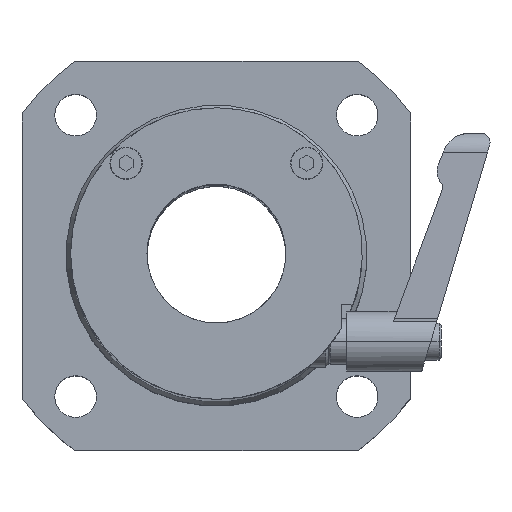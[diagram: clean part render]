
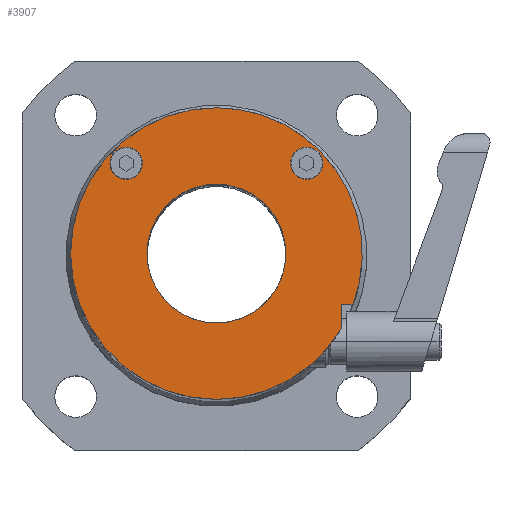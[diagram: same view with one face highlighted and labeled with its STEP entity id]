
A CAD part, top view. The second image highlights one B-rep face of the part: STEP entity #3907.
In plain terms, the highlighted planar face has unit normal (0, 0, 1).
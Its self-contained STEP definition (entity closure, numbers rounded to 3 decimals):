
#16 = CIRCLE ( 'NONE', #8806, 3.5 ) ;
#135 = DIRECTION ( 'NONE',  ( 1., 0., 0. ) ) ;
#230 = CARTESIAN_POINT ( 'NONE',  ( -25.096, 20.022, 70.5 ) ) ;
#232 = CARTESIAN_POINT ( 'NONE',  ( 21.404, -10.478, 70.5 ) ) ;
#409 = CIRCLE ( 'NONE', #1407, 3.5 ) ;
#505 = EDGE_CURVE ( 'NONE', #9970, #4859, #16, .T. ) ;
#551 = DIRECTION ( 'NONE',  ( 0., -1., 0. ) ) ;
#607 = VERTEX_POINT ( 'NONE', #4375 ) ;
#698 = CIRCLE ( 'NONE', #10094, 31.5 ) ;
#885 = AXIS2_PLACEMENT_3D ( 'NONE', #5747, #2672, #5946 ) ;
#886 = CARTESIAN_POINT ( 'NONE',  ( 17.404, 20.022, 70.5 ) ) ;
#915 = LINE ( 'NONE', #232, #5807 ) ;
#916 = CARTESIAN_POINT ( 'NONE',  ( 10.404, 20.022, 70.5 ) ) ;
#1141 = EDGE_LOOP ( 'NONE', ( #5373, #4336 ) ) ;
#1222 = CARTESIAN_POINT ( 'NONE',  ( -28.596, 20.022, 70.5 ) ) ;
#1307 = EDGE_CURVE ( 'NONE', #6417, #3129, #698, .T. ) ;
#1312 = ORIENTED_EDGE ( 'NONE', *, *, #3291, .T. ) ;
#1407 = AXIS2_PLACEMENT_3D ( 'NONE', #8753, #1662, #4134 ) ;
#1599 = EDGE_CURVE ( 'NONE', #6849, #2528, #915, .T. ) ;
#1662 = DIRECTION ( 'NONE',  ( 0., 0., 1. ) ) ;
#1706 = DIRECTION ( 'NONE',  ( 0., -1., 0. ) ) ;
#1708 = AXIS2_PLACEMENT_3D ( 'NONE', #4489, #7673, #551 ) ;
#1720 = ORIENTED_EDGE ( 'NONE', *, *, #2687, .T. ) ;
#1849 = DIRECTION ( 'NONE',  ( 0., 0., 1. ) ) ;
#1979 = CIRCLE ( 'NONE', #5612, 3.5 ) ;
#1995 = CARTESIAN_POINT ( 'NONE',  ( -5.596, 15.522, 70.5 ) ) ;
#2111 = ORIENTED_EDGE ( 'NONE', *, *, #1599, .F. ) ;
#2321 = VERTEX_POINT ( 'NONE', #916 ) ;
#2477 = DIRECTION ( 'NONE',  ( 1., 0., 0. ) ) ;
#2528 = VERTEX_POINT ( 'NONE', #9455 ) ;
#2672 = DIRECTION ( 'NONE',  ( 0., 0., 1. ) ) ;
#2687 = EDGE_CURVE ( 'NONE', #3129, #4699, #8982, .T. ) ;
#3010 = DIRECTION ( 'NONE',  ( 0., 0., 1. ) ) ;
#3129 = VERTEX_POINT ( 'NONE', #7488 ) ;
#3145 = CARTESIAN_POINT ( 'NONE',  ( -5.596, 0.522, 70.5 ) ) ;
#3228 = CIRCLE ( 'NONE', #8867, 15. ) ;
#3282 = ORIENTED_EDGE ( 'NONE', *, *, #5514, .F. ) ;
#3291 = EDGE_CURVE ( 'NONE', #4699, #2528, #5119, .T. ) ;
#3315 = CARTESIAN_POINT ( 'NONE',  ( 23.921, -10.478, 70.5 ) ) ;
#3329 = ORIENTED_EDGE ( 'NONE', *, *, #1307, .T. ) ;
#3362 = EDGE_CURVE ( 'NONE', #2321, #7940, #1979, .T. ) ;
#3414 = CARTESIAN_POINT ( 'NONE',  ( -5.596, 0.522, 70.5 ) ) ;
#3424 = ORIENTED_EDGE ( 'NONE', *, *, #7965, .F. ) ;
#3757 = CIRCLE ( 'NONE', #9540, 3.5 ) ;
#3801 = AXIS2_PLACEMENT_3D ( 'NONE', #10103, #3010, #9340 ) ;
#3849 = DIRECTION ( 'NONE',  ( -1., 0., 0. ) ) ;
#3907 = ADVANCED_FACE ( 'NONE', ( #6679, #9899, #9065, #8179 ), #7422, .T. ) ;
#4049 = LINE ( 'NONE', #7236, #8546 ) ;
#4134 = DIRECTION ( 'NONE',  ( 1., 0., 0. ) ) ;
#4326 = DIRECTION ( 'NONE',  ( 0., -1., 0. ) ) ;
#4336 = ORIENTED_EDGE ( 'NONE', *, *, #4593, .F. ) ;
#4375 = CARTESIAN_POINT ( 'NONE',  ( -5.596, -14.478, 70.5 ) ) ;
#4489 = CARTESIAN_POINT ( 'NONE',  ( -5.596, 0.522, 70.5 ) ) ;
#4593 = EDGE_CURVE ( 'NONE', #7940, #2321, #3757, .T. ) ;
#4618 = EDGE_LOOP ( 'NONE', ( #2111, #3424, #3329, #1720, #1312 ) ) ;
#4699 = VERTEX_POINT ( 'NONE', #7978 ) ;
#4859 = VERTEX_POINT ( 'NONE', #1222 ) ;
#4913 = DIRECTION ( 'NONE',  ( 0., 0., 1. ) ) ;
#5119 = CIRCLE ( 'NONE', #3801, 31.5 ) ;
#5331 = ORIENTED_EDGE ( 'NONE', *, *, #505, .F. ) ;
#5373 = ORIENTED_EDGE ( 'NONE', *, *, #3362, .F. ) ;
#5378 = DIRECTION ( 'NONE',  ( 0., 0., 1. ) ) ;
#5514 = EDGE_CURVE ( 'NONE', #8941, #607, #9678, .T. ) ;
#5612 = AXIS2_PLACEMENT_3D ( 'NONE', #5805, #9749, #2477 ) ;
#5623 = DIRECTION ( 'NONE',  ( 0., 0., 1. ) ) ;
#5747 = CARTESIAN_POINT ( 'NONE',  ( -5.596, 0.522, 70.5 ) ) ;
#5805 = CARTESIAN_POINT ( 'NONE',  ( 13.904, 20.022, 70.5 ) ) ;
#5807 = VECTOR ( 'NONE', #5833, 1000. ) ;
#5833 = DIRECTION ( 'NONE',  ( 0., -1., 0. ) ) ;
#5946 = DIRECTION ( 'NONE',  ( 0., -1., 0. ) ) ;
#6043 = AXIS2_PLACEMENT_3D ( 'NONE', #3145, #8689, #8482 ) ;
#6163 = CARTESIAN_POINT ( 'NONE',  ( 21.404, -10.478, 70.5 ) ) ;
#6172 = CARTESIAN_POINT ( 'NONE',  ( 13.904, 20.022, 70.5 ) ) ;
#6268 = CARTESIAN_POINT ( 'NONE',  ( -21.596, 20.022, 70.5 ) ) ;
#6417 = VERTEX_POINT ( 'NONE', #3315 ) ;
#6618 = ORIENTED_EDGE ( 'NONE', *, *, #7564, .F. ) ;
#6679 = FACE_BOUND ( 'NONE', #1141, .T. ) ;
#6849 = VERTEX_POINT ( 'NONE', #6163 ) ;
#7236 = CARTESIAN_POINT ( 'NONE',  ( 21.404, -10.478, 70.5 ) ) ;
#7419 = CARTESIAN_POINT ( 'NONE',  ( -5.596, 0.522, 70.5 ) ) ;
#7422 = PLANE ( 'NONE',  #885 ) ;
#7488 = CARTESIAN_POINT ( 'NONE',  ( -5.596, 32.022, 70.5 ) ) ;
#7564 = EDGE_CURVE ( 'NONE', #4859, #9970, #409, .T. ) ;
#7673 = DIRECTION ( 'NONE',  ( 0., 0., 1. ) ) ;
#7832 = DIRECTION ( 'NONE',  ( 1., 0., 0. ) ) ;
#7940 = VERTEX_POINT ( 'NONE', #886 ) ;
#7965 = EDGE_CURVE ( 'NONE', #6417, #6849, #4049, .T. ) ;
#7978 = CARTESIAN_POINT ( 'NONE',  ( -5.596, -30.978, 70.5 ) ) ;
#8179 = FACE_BOUND ( 'NONE', #8983, .T. ) ;
#8482 = DIRECTION ( 'NONE',  ( 0., -1., 0. ) ) ;
#8546 = VECTOR ( 'NONE', #3849, 1000. ) ;
#8689 = DIRECTION ( 'NONE',  ( 0., 0., 1. ) ) ;
#8753 = CARTESIAN_POINT ( 'NONE',  ( -25.096, 20.022, 70.5 ) ) ;
#8806 = AXIS2_PLACEMENT_3D ( 'NONE', #230, #5623, #135 ) ;
#8809 = EDGE_LOOP ( 'NONE', ( #6618, #5331 ) ) ;
#8867 = AXIS2_PLACEMENT_3D ( 'NONE', #3414, #1849, #4326 ) ;
#8941 = VERTEX_POINT ( 'NONE', #1995 ) ;
#8982 = CIRCLE ( 'NONE', #1708, 31.5 ) ;
#8983 = EDGE_LOOP ( 'NONE', ( #3282, #9946 ) ) ;
#9065 = FACE_OUTER_BOUND ( 'NONE', #4618, .T. ) ;
#9308 = EDGE_CURVE ( 'NONE', #607, #8941, #3228, .T. ) ;
#9340 = DIRECTION ( 'NONE',  ( 0., -1., 0. ) ) ;
#9455 = CARTESIAN_POINT ( 'NONE',  ( 21.404, -15.703, 70.5 ) ) ;
#9540 = AXIS2_PLACEMENT_3D ( 'NONE', #6172, #5378, #7832 ) ;
#9678 = CIRCLE ( 'NONE', #6043, 15. ) ;
#9749 = DIRECTION ( 'NONE',  ( 0., 0., 1. ) ) ;
#9899 = FACE_BOUND ( 'NONE', #8809, .T. ) ;
#9946 = ORIENTED_EDGE ( 'NONE', *, *, #9308, .F. ) ;
#9970 = VERTEX_POINT ( 'NONE', #6268 ) ;
#10094 = AXIS2_PLACEMENT_3D ( 'NONE', #7419, #4913, #1706 ) ;
#10103 = CARTESIAN_POINT ( 'NONE',  ( -5.596, 0.522, 70.5 ) ) ;
